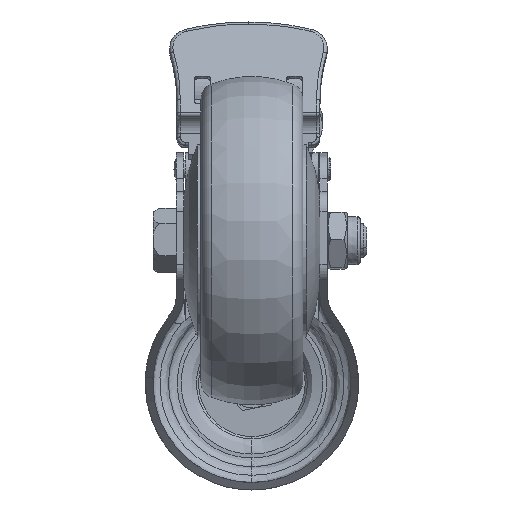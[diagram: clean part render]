
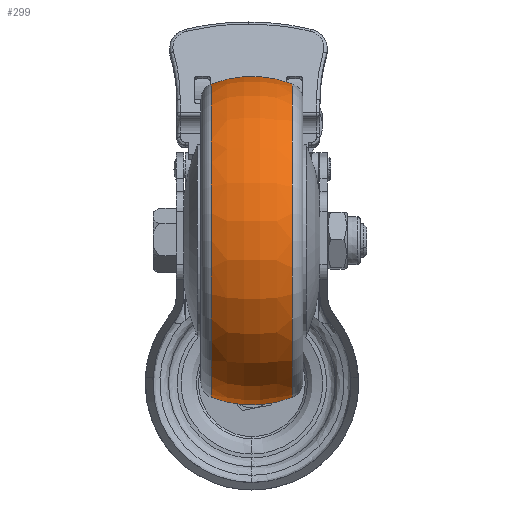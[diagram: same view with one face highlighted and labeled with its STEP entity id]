
A CAD part, front view. The second image highlights one B-rep face of the part: STEP entity #299.
In plain terms, the highlighted toroidal (fillet/blend) face has major radius 16 mm and minor radius 34 mm.
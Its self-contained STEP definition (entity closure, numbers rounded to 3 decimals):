
#299 = ADVANCED_FACE ( 'NONE', ( #29455 ), #17670, .T. ) ;
#422 = AXIS2_PLACEMENT_3D ( 'NONE', #27054, #8407, #2015 ) ;
#546 = CARTESIAN_POINT ( 'NONE',  ( 12.31, 0., 0. ) ) ;
#1176 = AXIS2_PLACEMENT_3D ( 'NONE', #1430, #13622, #10612 ) ;
#1430 = CARTESIAN_POINT ( 'NONE',  ( -12.31, 0., 0. ) ) ;
#2015 = DIRECTION ( 'NONE',  ( 0., 0., 1. ) ) ;
#3129 = CARTESIAN_POINT ( 'NONE',  ( 12.31, 0., 47.693 ) ) ;
#3879 = ORIENTED_EDGE ( 'NONE', *, *, #5443, .T. ) ;
#4666 = ORIENTED_EDGE ( 'NONE', *, *, #28907, .F. ) ;
#5443 = EDGE_CURVE ( 'NONE', #7364, #19831, #35968, .T. ) ;
#6526 = AXIS2_PLACEMENT_3D ( 'NONE', #546, #22163, #16135 ) ;
#7364 = VERTEX_POINT ( 'NONE', #35069 ) ;
#8407 = DIRECTION ( 'NONE',  ( -1., 0., 0. ) ) ;
#9317 = DIRECTION ( 'NONE',  ( 0., -1., 0. ) ) ;
#10102 = CIRCLE ( 'NONE', #1176, 47.693 ) ;
#10612 = DIRECTION ( 'NONE',  ( 0., 0., 1. ) ) ;
#13622 = DIRECTION ( 'NONE',  ( -1., 0., 0. ) ) ;
#13939 = EDGE_CURVE ( 'NONE', #7364, #36727, #23485, .T. ) ;
#16135 = DIRECTION ( 'NONE',  ( 0., 0., 1. ) ) ;
#16421 = AXIS2_PLACEMENT_3D ( 'NONE', #19174, #31385, #34590 ) ;
#17670 = TOROIDAL_SURFACE ( 'NONE', #422, 16., 34. ) ;
#18288 = ORIENTED_EDGE ( 'NONE', *, *, #13939, .F. ) ;
#19174 = CARTESIAN_POINT ( 'NONE',  ( 0., 0., -16. ) ) ;
#19831 = VERTEX_POINT ( 'NONE', #3129 ) ;
#20395 = EDGE_LOOP ( 'NONE', ( #18288, #3879, #27747, #4666 ) ) ;
#20424 = VERTEX_POINT ( 'NONE', #33572 ) ;
#21559 = CARTESIAN_POINT ( 'NONE',  ( 0., 0., 16. ) ) ;
#22163 = DIRECTION ( 'NONE',  ( -1., 0., 0. ) ) ;
#23485 = CIRCLE ( 'NONE', #16421, 34. ) ;
#26690 = CARTESIAN_POINT ( 'NONE',  ( -12.31, 0., -47.693 ) ) ;
#27054 = CARTESIAN_POINT ( 'NONE',  ( 0., 0., 0. ) ) ;
#27747 = ORIENTED_EDGE ( 'NONE', *, *, #33988, .T. ) ;
#28907 = EDGE_CURVE ( 'NONE', #36727, #20424, #10102, .T. ) ;
#29310 = CIRCLE ( 'NONE', #39560, 34. ) ;
#29455 = FACE_OUTER_BOUND ( 'NONE', #20395, .T. ) ;
#31150 = DIRECTION ( 'NONE',  ( 0., 0., -1. ) ) ;
#31385 = DIRECTION ( 'NONE',  ( 0., 1., 0. ) ) ;
#33572 = CARTESIAN_POINT ( 'NONE',  ( -12.31, 0., 47.693 ) ) ;
#33988 = EDGE_CURVE ( 'NONE', #19831, #20424, #29310, .T. ) ;
#34590 = DIRECTION ( 'NONE',  ( 0., 0., 1. ) ) ;
#35069 = CARTESIAN_POINT ( 'NONE',  ( 12.31, 0., -47.693 ) ) ;
#35968 = CIRCLE ( 'NONE', #6526, 47.693 ) ;
#36727 = VERTEX_POINT ( 'NONE', #26690 ) ;
#39560 = AXIS2_PLACEMENT_3D ( 'NONE', #21559, #9317, #31150 ) ;
